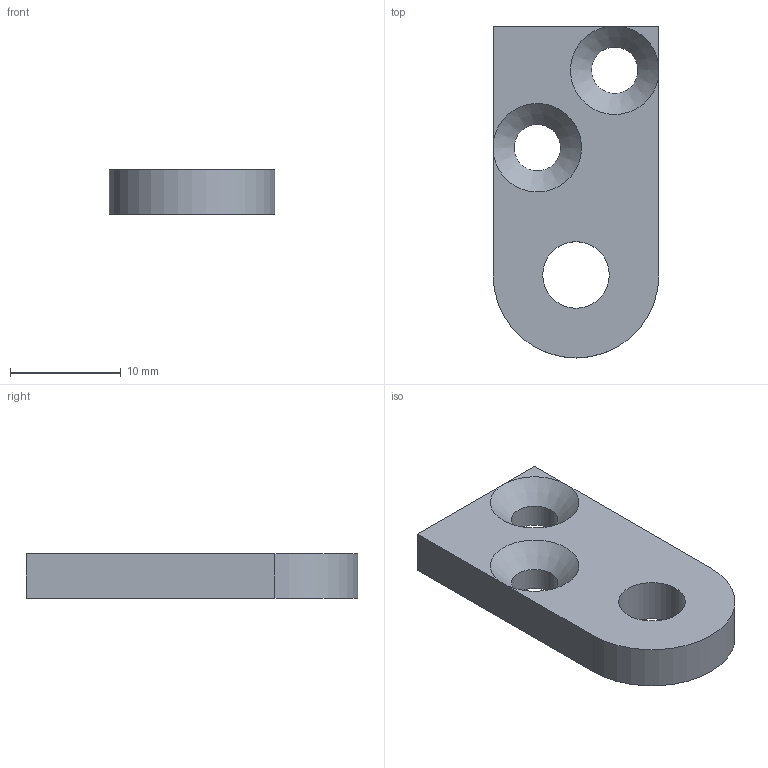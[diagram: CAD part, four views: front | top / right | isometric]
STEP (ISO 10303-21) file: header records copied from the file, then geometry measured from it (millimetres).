
FILE_DESCRIPTION(/* description */ ('HINGE SEAT B'),/* implementation_level */ '2;1');
FILE_NAME(/* name */ 'C:\Users\Apardo\Documents\Proyectos\Dietrich\Proyecto 1\PLATE ROLLING MACHINE\STEP\1.4 hinge seat B.stp',/* time_stamp */ '2020-11-03T20:40:55-04:00',/* author */ ('Apardo'),/* organization */ ('8'),/* preprocessor_version */ 'ST-DEVELOPER v18',/* originating_system */ 'Autodesk Inventor 2020',/* authorisation */ '');
FILE_SCHEMA (('AUTOMOTIVE_DESIGN { 1 0 10303 214 3 1 1 }'));
Length unit declared in the file: millimetre
Products named in the file (1): hinge seat B
Bounding box: 15 x 30 x 4 mm (x, y, z)
Volume: 1416.7 mm3; surface area: 1234.8 mm2
Topology: 1 solids, 1 shells, 12 faces, 36 edges, 24 vertices
Faces by surface type: plane 6, cylinder 4, cone 2
Full cylindrical faces by diameter (mm): 4.2 x2, 6.02 x1
Entity records: 471 total; most frequent: DIRECTION 80, CARTESIAN_POINT 73, ORIENTED_EDGE 72, EDGE_CURVE 36, AXIS2_PLACEMENT_3D 31, VERTEX_POINT 24, LINE 18, VECTOR 18
